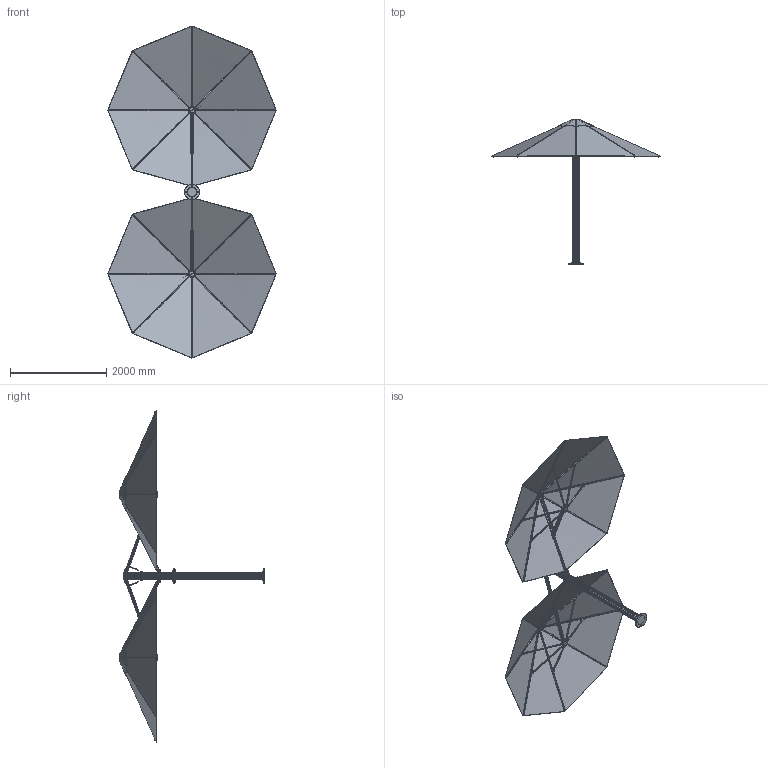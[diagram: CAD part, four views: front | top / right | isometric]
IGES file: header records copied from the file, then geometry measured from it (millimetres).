
Start section: SolidWorks IGES file using analytic representation for surfaces
Global section: file name: S:\RESEARCH and DEVELOPMENT\UnitySerenity Simple CAD Models\1. Export CAD\IGES Files\Unity 3.5M Octagonal Duo.IGS; native system: SolidWorks 2017; preprocessor: SolidWorks 2017; author: Peter; date: 200619.102441; units: millimetre
Bounding box: 3507.77 x 3017.95 x 6909.76 mm (x, y, z)
Surface area: 47978920.4 mm2 (no closed solid volume)
Topology: 0 solids, 0 shells, 3680 faces, 50678 edges, 50626 vertices
Faces by surface type: bspline 1904, revolution 1776
